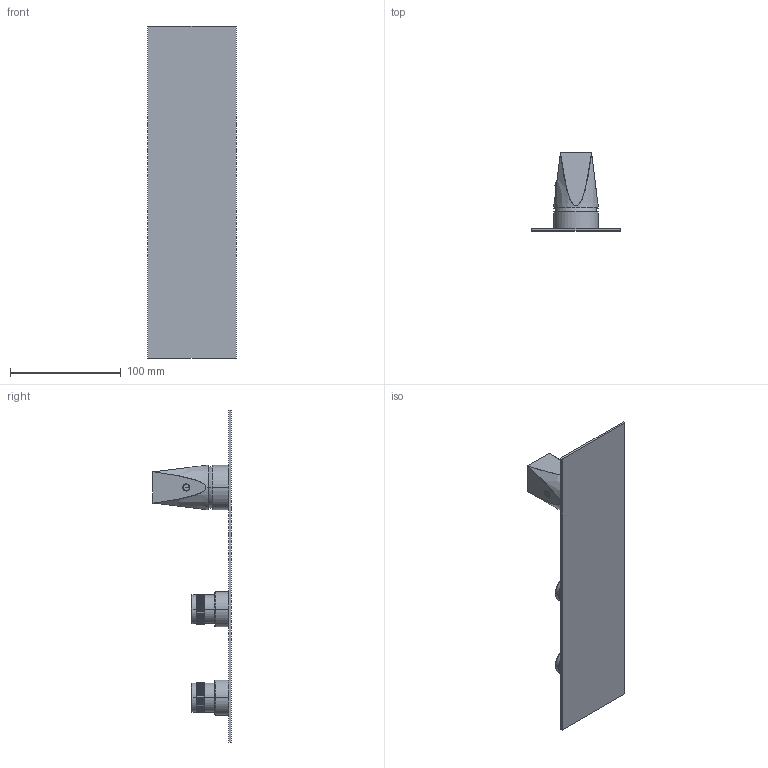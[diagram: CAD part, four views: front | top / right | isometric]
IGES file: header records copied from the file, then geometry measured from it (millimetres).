
Start section:  PTC IGES file: 49000V2.igs
Global section: file name: 49000V2.igs; native system: Creo Parametric by PTC Inc.; preprocessor: 2022014; author: carloff; organization: Unknown; date: 20230921.102258; units: millimetre
Bounding box: 80 x 70.7 x 300 mm (x, y, z)
Surface area: 64476.1 mm2 (no closed solid volume)
Topology: 0 solids, 0 shells, 3312 faces, 16504 edges, 16498 vertices
Faces by surface type: bspline 2585, revolution 727
